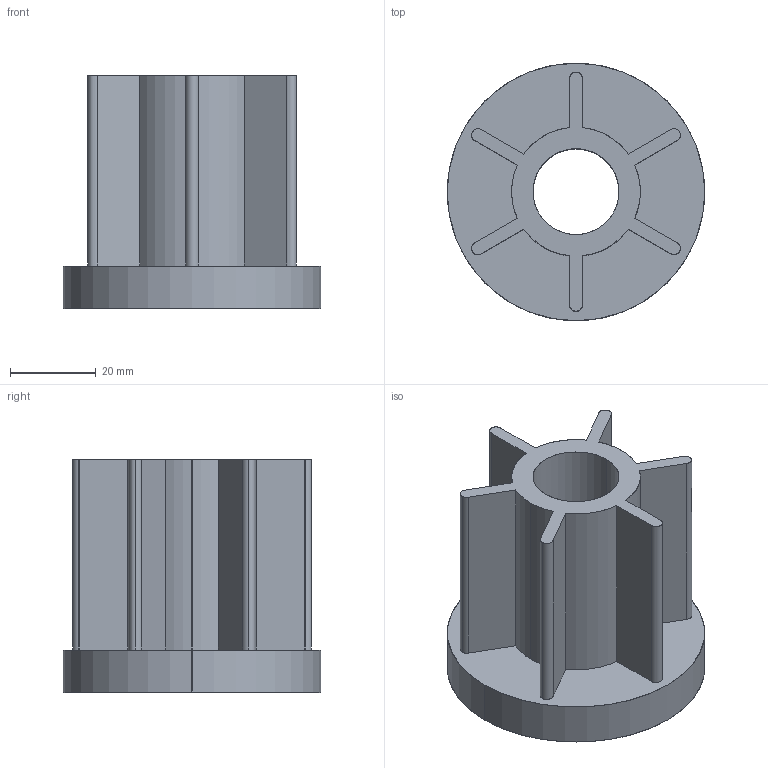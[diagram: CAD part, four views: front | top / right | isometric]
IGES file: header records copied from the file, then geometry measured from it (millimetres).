
Start section: SolidWorks IGES file using analytic representation for surfaces
Global section: file name: C:\Documents and Settings\URETIM3\Desktop\yeni katalog tolgay düzenli\A kataloðu\235 yuvarlak profil klavuzlari\235 602 020.IGS; native system: SolidWorks 2006 by SolidWorks Corporation; preprocessor: SolidWorks 2006 by SolidWorks Corporation; author: URETIM3; date: 060912.094226; units: millimetre
Bounding box: 60 x 60 x 54.5 mm (x, y, z)
Surface area: 21087.2 mm2 (no closed solid volume)
Topology: 0 solids, 0 shells, 38 faces, 636 edges, 636 vertices
Faces by surface type: revolution 23, bspline 15
